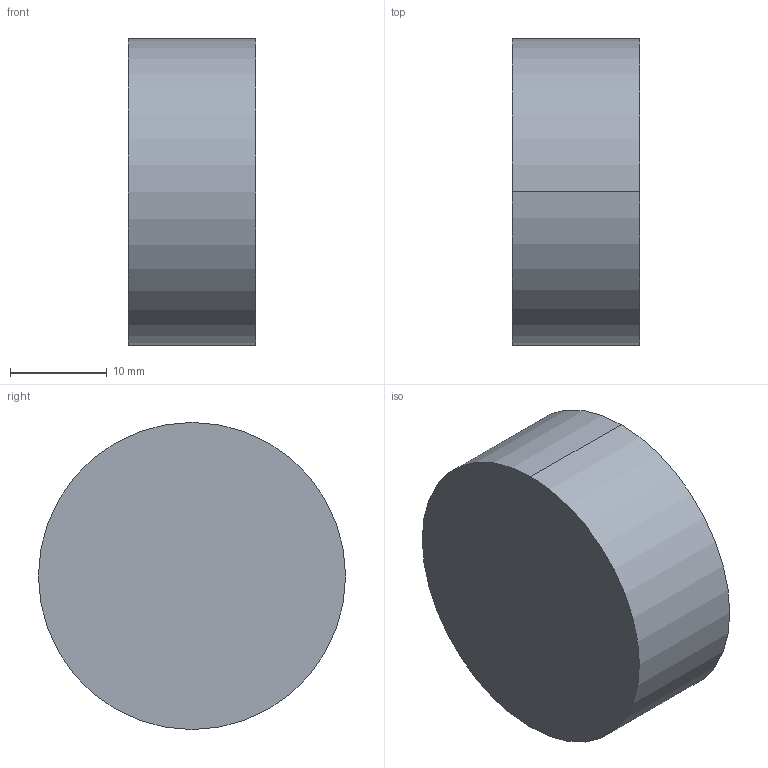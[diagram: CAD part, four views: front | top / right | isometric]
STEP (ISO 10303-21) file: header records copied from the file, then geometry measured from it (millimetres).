
FILE_DESCRIPTION (( 'STEP AP214' ), '1' );
FILE_NAME ('60l-front-out-plug.STEP', '2012-11-29T15:59:55', ( '' ), ( '' ), 'SwSTEP 2.0', 'SolidWorks 2012', '' );
FILE_SCHEMA (( 'AUTOMOTIVE_DESIGN' ));
Length unit declared in the file: inch
Products named in the file (1): 60l-front-out-plug
Bounding box: 13.21 x 31.75 x 31.75 mm (x, y, z)
Volume: 10246.3 mm3; surface area: 3160.3 mm2
Topology: 1 solids, 1 shells, 16 faces, 30 edges, 20 vertices
Faces by surface type: cylinder 10, plane 6
Entity records: 493 total; most frequent: DIRECTION 84, CARTESIAN_POINT 67, ORIENTED_EDGE 60, AXIS2_PLACEMENT_3D 37, EDGE_CURVE 30, VERTEX_POINT 20, EDGE_LOOP 20, CIRCLE 20
